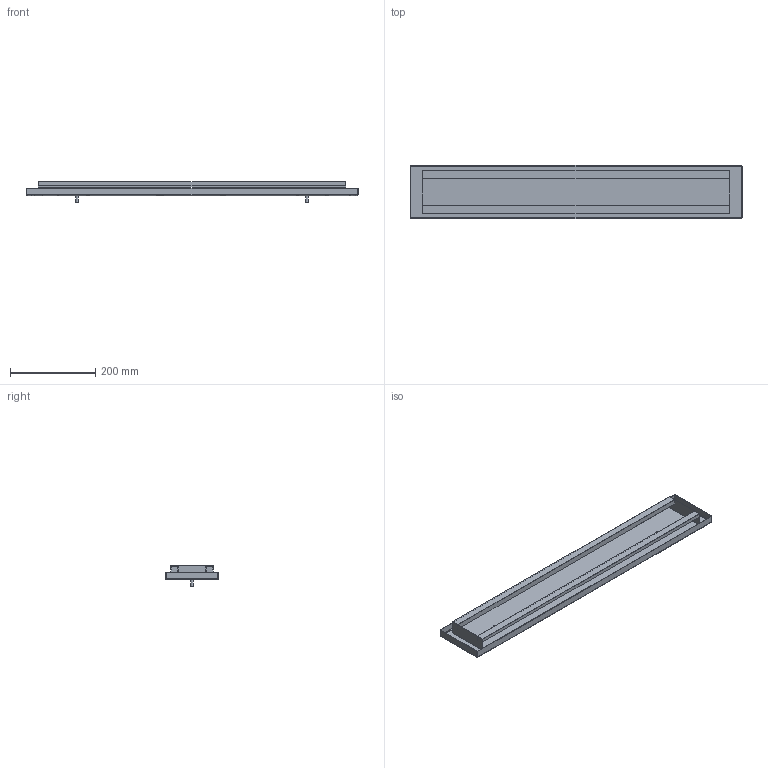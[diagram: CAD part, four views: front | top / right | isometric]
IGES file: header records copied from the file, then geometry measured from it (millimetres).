
Start section: SolidWorks IGES file using NURBS representation for surfaces
Global section: file name: Z:\Modele 3D_WWW\_CAMELEON\PUSZKI WWW\CAMELEON-CANOPY_D_780_8552_8553\CANOPY_D_780_8552_8553.IGS; native system: SolidWorks 2021; preprocessor: SolidWorks 2021; author: gabriela.tworek; date: 220301.115518; units: millimetre
Bounding box: 780 x 125 x 48 mm (x, y, z)
Surface area: 377964.6 mm2 (no closed solid volume)
Topology: 0 solids, 0 shells, 76 faces, 314 edges, 312 vertices
Faces by surface type: bspline 76
